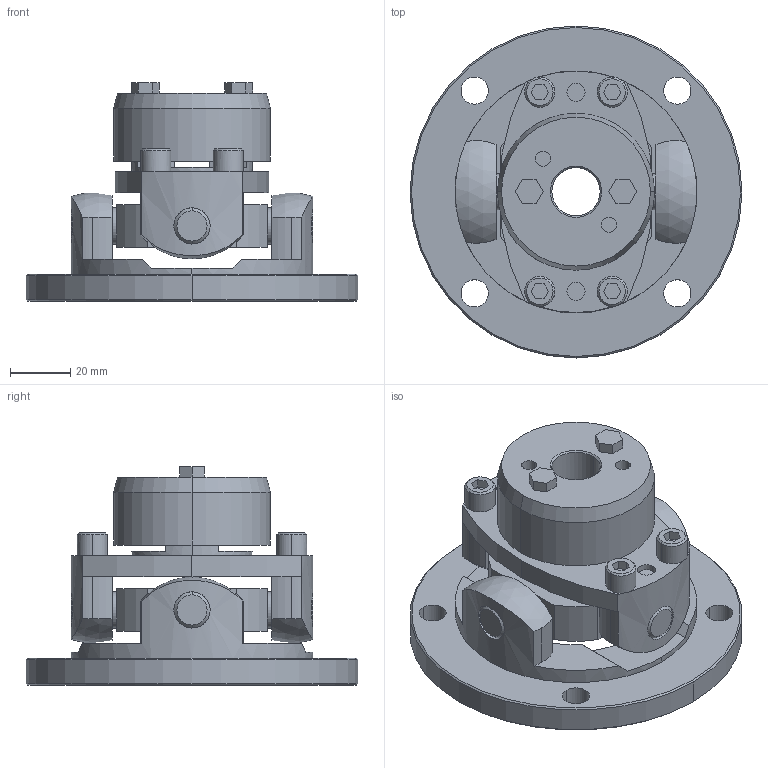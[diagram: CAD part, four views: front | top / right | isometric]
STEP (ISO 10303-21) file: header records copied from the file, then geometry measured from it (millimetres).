
FILE_DESCRIPTION((''),'2;1');
FILE_NAME('UCNF-80T7-16.stp','2015-10-28T08:13:09',(''),(''),'AutoCAD STEP 2000i','AutoCAD 2000i',', , ');
FILE_SCHEMA(('CONFIG_CONTROL_DESIGN'));
Length unit declared in the file: millimetre
Products named in the file (6): UCNF-80T7-17; 忣兜1; UCNF-8002; UCN80T7-T017-1; UCN80T7-T017; UCN80-SEN
Assembly tree (5 placements, depth 2):
  UCNF-80T7-17
    忣兜1
    UCNF-8002
    UCN80T7-T017-1
    UCN80T7-T017
    UCN80-SEN
Bounding box: 110 x 110 x 72.5 mm (x, y, z)
Volume: 195227.9 mm3; surface area: 54518.1 mm2
Topology: 1 solids, 1 shells, 268 faces, 670 edges, 436 vertices
Faces by surface type: plane 122, cylinder 104, cone 38, sphere 4
Entity records: 8653 total; most frequent: CARTESIAN_POINT 1784, DIRECTION 1500, ORIENTED_EDGE 1340, EDGE_CURVE 670, AXIS2_PLACEMENT_3D 572, VERTEX_POINT 436, VECTOR 356, LINE 356
